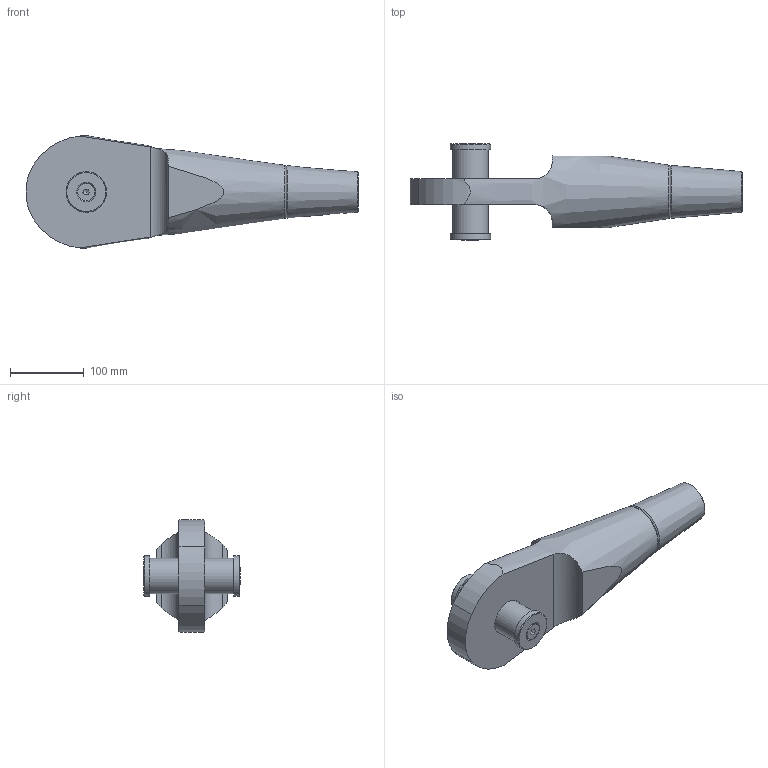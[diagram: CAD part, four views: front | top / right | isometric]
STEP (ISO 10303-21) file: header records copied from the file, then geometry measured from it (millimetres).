
FILE_DESCRIPTION(/* description */ (''),/* implementation_level */ '2;1');
FILE_NAME(/* name */ 'G:\Engineering\700 CAD\Internet-PX-1-step-igs-dxf\520-OES-Arbeitsdateien\520-048-OES.stp',/* time_stamp */ '2020-06-26T10:34:38+02:00',/* author */ ('schwarz'),/* organization */ (''),/* preprocessor_version */ 'ST-DEVELOPER v16.1',/* originating_system */ 'Autodesk Inventor 2016',/* authorisation */ '');
FILE_SCHEMA (('AUTOMOTIVE_DESIGN { 1 0 10303 214 3 1 1 }'));
Length unit declared in the file: centimetre
Products named in the file (1): 520-048-OES-KMU-Kunde
Bounding box: 449.75 x 130.44 x 152.7 mm (x, y, z)
Volume: 2364089.5 mm3; surface area: 179878.9 mm2
Topology: 2 solids, 4 shells, 49 faces, 109 edges, 71 vertices
Faces by surface type: plane 22, cylinder 14, cone 12, torus 1
Full cylindrical faces by diameter (mm): 10.106 x1, 12 x1, 13.5 x1, 23.12 x1, 48 x1, 50.5 x1, 51 x1, 55 x2
Entity records: 1384 total; most frequent: CARTESIAN_POINT 344, DIRECTION 198, ORIENTED_EDGE 158, AXIS2_PLACEMENT_3D 89, EDGE_CURVE 79, EDGE_LOOP 78, VERTEX_POINT 63, STYLED_ITEM 51
